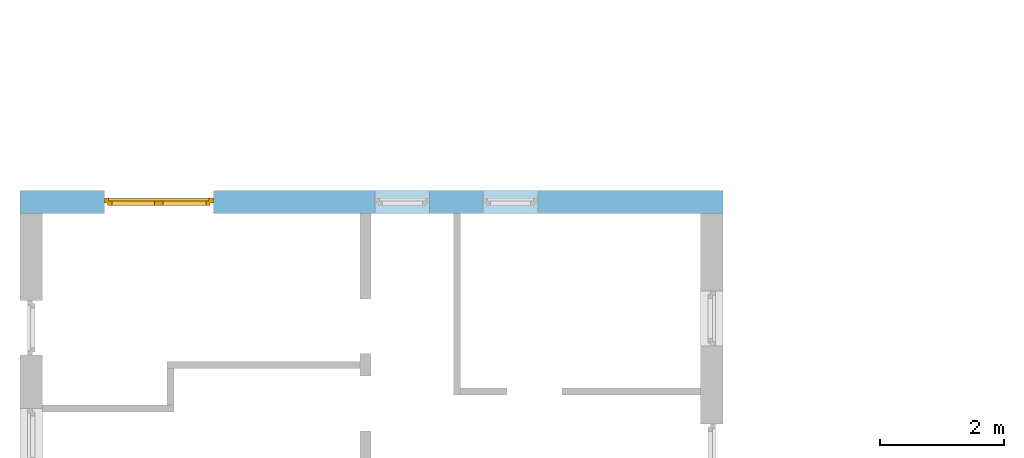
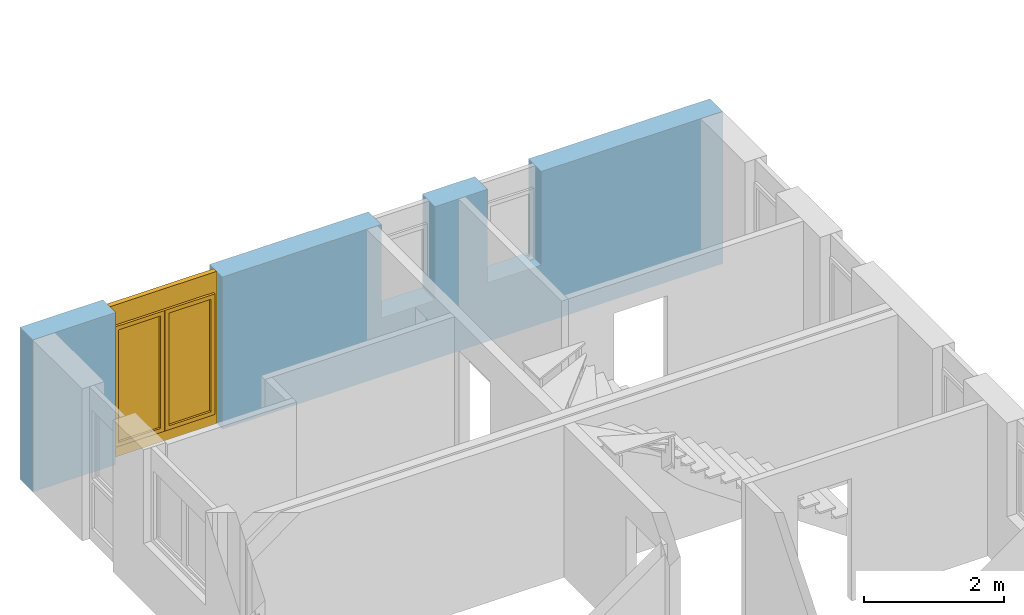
# One storey, part 13 of 42: 1 window, 3 openings, plus 1 element that does not belong to this part.
"""IFC2X3 building model written with IfcOpenShell, lengths in millimetres."""

import ifcopenshell
import ifcopenshell.guid

model = None  # the IFC model being written
_history = None  # IfcOwnerHistory: only IFC2X3 demands one
_inside = {}  # id of a spatial element -> (the spatial element, [elements in it])
_under = {}  # id of a project, library or spatial element -> (it, [spatial elements below it])
_declared = {}  # id of a project -> (the project, [libraries it declares])
_typed = {}  # id of a type object -> (the type object, [elements of that type])
_made_of = {}  # id of a material, layer set ... -> (it, [elements and type objects made of it])


def new_model(schema):
    """Start an empty IFC model of exactly this schema.

    Asked for "IFC4X3", IfcOpenShell would pick the latest addendum, in which some entities
    have other attributes; the version numbers below select the first issue.
    IFC2X3 requires an IfcOwnerHistory on every rooted entity: one is made here for all.
    """
    global model, _history
    if schema == "IFC4X3":
        model = ifcopenshell.file(schema_version=(4, 3, 0, 0))
    else:
        model = ifcopenshell.file(schema=schema)
    _inside.clear()
    _under.clear()
    _declared.clear()
    _typed.clear()
    _made_of.clear()
    _history = None
    if model.schema == "IFC2X3":
        org = make("IfcOrganization", Name="unknown")
        user = make(
            "IfcPersonAndOrganization",
            ThePerson=make("IfcPerson", FamilyName="unknown"),
            TheOrganization=org,
        )
        app = make(
            "IfcApplication",
            ApplicationDeveloper=org,
            Version="unknown",
            ApplicationFullName="unknown",
            ApplicationIdentifier="unknown",
        )
        _history = make(
            "IfcOwnerHistory",
            OwningUser=user,
            OwningApplication=app,
            ChangeAction="ADDED",
            CreationDate=0,
        )
    return model


def make(cls, **values):
    """One entity of the class cls with the attributes given. An attribute that is None is left unset."""
    return model.create_entity(
        cls, **{name: value for name, value in values.items() if value is not None}
    )


def entity(cls, *values):
    """Any entity or typed value of the class cls, its attributes in the order of the schema. None: left unset."""
    e = model.create_entity(cls)
    for i, value in enumerate(values):
        if value is not None:
            e[i] = value
    return e


def rooted(cls, **values):
    """An entity with a GlobalId (a new one), such as an element, a storey or a relation."""
    return make(cls, GlobalId=ifcopenshell.guid.new(), OwnerHistory=_history, **values)


def si_unit(unit_type, name, prefix=None):
    """IfcSIUnit, for example si_unit("LENGTHUNIT", "METRE", prefix="MILLI")."""
    return make("IfcSIUnit", UnitType=unit_type, Prefix=prefix, Name=name)


def converted_unit(unit_type, name, factor, base, dimensions=None, offset=None):
    """IfcConversionBasedUnit, such as the inch: factor (a typed value) times the base unit."""
    return make(
        "IfcConversionBasedUnit"
        if offset is None
        else "IfcConversionBasedUnitWithOffset",
        ConversionOffset=offset,
        Dimensions=None
        if dimensions is None
        else entity("IfcDimensionalExponents", *dimensions),
        UnitType=unit_type,
        Name=name,
        ConversionFactor=make(
            "IfcMeasureWithUnit", ValueComponent=factor, UnitComponent=base
        ),
    )


def assignment(units):
    """IfcUnitAssignment: the units of a project."""
    return None if units is None else make("IfcUnitAssignment", Units=units)


def point(xyz):
    """IfcCartesianPoint."""
    return None if xyz is None else make("IfcCartesianPoint", Coordinates=xyz)


def direction(xyz):
    """IfcDirection."""
    return None if xyz is None else make("IfcDirection", DirectionRatios=xyz)


def frame(location, z_axis=None, x_axis=None):
    """IfcAxis2Placement3D, a coordinate frame: its origin and axes. An axis left out is left unset."""
    return make(
        "IfcAxis2Placement3D",
        Location=point(location),
        Axis=direction(z_axis),
        RefDirection=direction(x_axis),
    )


def frame_2d(location, x_axis=None):
    """IfcAxis2Placement2D, a coordinate frame in the plane: its origin and x axis."""
    return make(
        "IfcAxis2Placement2D", Location=point(location), RefDirection=direction(x_axis)
    )


def origin():
    """The frame at (0, 0, 0) with its axes left unset."""
    return frame((0.0, 0.0, 0.0))


def origin_with_axes():
    """The frame at (0, 0, 0) with the z axis (0, 0, 1) and the x axis (1, 0, 0) written out."""
    return frame((0.0, 0.0, 0.0), z_axis=(0.0, 0.0, 1.0), x_axis=(1.0, 0.0, 0.0))


def place(relative_to, where):
    """IfcLocalPlacement: puts the frame where relative to a parent placement (None: the world)."""
    return make(
        "IfcLocalPlacement", PlacementRelTo=relative_to, RelativePlacement=where
    )


def context(
    kind, dimensions, precision=None, world=None, true_north=None, identifier=None
):
    """IfcGeometricRepresentationContext, for example the 3D "Model" context."""
    return make(
        "IfcGeometricRepresentationContext",
        ContextIdentifier=identifier,
        ContextType=kind,
        CoordinateSpaceDimension=dimensions,
        Precision=precision,
        WorldCoordinateSystem=world,
        TrueNorth=true_north,
    )


def subcontext(parent, identifier, kind, view, scale=None):
    """IfcGeometricRepresentationSubContext, for example "Body" below "Model"."""
    return make(
        "IfcGeometricRepresentationSubContext",
        ContextIdentifier=identifier,
        ContextType=kind,
        ParentContext=parent,
        TargetScale=scale,
        TargetView=view,
    )


def project(units=None, contexts=None):
    """IfcProject with its units and contexts."""
    return rooted(
        "IfcProject",
        Name="project",
        RepresentationContexts=contexts,
        UnitsInContext=assignment(units),
    )


def spatial(cls, under=None, at=None, **own):
    """A site, building, storey or space (cls), placed at a placement, below another one or the project."""
    s = rooted(cls, ObjectPlacement=at, **own)
    if under is not None:
        _under.setdefault(under.id(), (under, []))[1].append(s)
    return s


def profile(cls, at=None, kind="AREA", **sizes):
    """A parametric profile (cls). Its sizes go by their IFC names, for example OverallWidth=200.0."""
    return make(cls, ProfileType=kind, Position=at, **sizes)


def rectangle(**sizes):
    """IfcRectangleProfileDef."""
    return profile("IfcRectangleProfileDef", **sizes)


def extrude(swept, where, along, depth):
    """IfcExtrudedAreaSolid: the profile swept, set in the frame where, extruded along a direction by depth."""
    return make(
        "IfcExtrudedAreaSolid",
        SweptArea=swept,
        Position=where,
        ExtrudedDirection=direction(along),
        Depth=depth,
    )


def faces_of(points, faces, orient=None, outer=None):
    """IfcFace entities. A face is a list of loops; a loop is a list of indices into points, from 0.

    orient and outer hold one flag for each loop. By default every Orientation is true, the
    first loop of a face is its IfcFaceOuterBound and the others are IfcFaceBound.
    """
    made = []
    for i, loops in enumerate(faces):
        bounds = []
        for j, loop in enumerate(loops):
            is_outer = j == 0 if outer is None else outer[i][j]
            bounds.append(
                make(
                    "IfcFaceOuterBound" if is_outer else "IfcFaceBound",
                    Bound=make("IfcPolyLoop", Polygon=[points[k] for k in loop]),
                    Orientation=True if orient is None else orient[i][j],
                )
            )
        made.append(make("IfcFace", Bounds=bounds))
    return made


def faceted_brep(points, faces, orient=None, outer=None, voids=None):
    """IfcFacetedBrep: a solid bounded by flat faces; with voids (closed shells), ...WithVoids."""
    shared = [point(p) for p in points]
    hull = make("IfcClosedShell", CfsFaces=faces_of(shared, faces, orient, outer))
    if voids is None:
        return make("IfcFacetedBrep", Outer=hull)
    return make(
        "IfcFacetedBrepWithVoids",
        Outer=hull,
        Voids=[
            make(cls, CfsFaces=faces_of(shared, fs, o, b)) for cls, fs, o, b in voids
        ],
    )


def shape(context_of_items, identifier, shape_type, items):
    """IfcShapeRepresentation: the items that make up one representation, for example the "Body"."""
    return make(
        "IfcShapeRepresentation",
        ContextOfItems=context_of_items,
        RepresentationIdentifier=identifier,
        RepresentationType=shape_type,
        Items=items,
    )


def material(Name=None, Category=None):
    """IfcMaterial."""
    return make("IfcMaterial", Name=Name, Category=Category)


def layer(
    of_material, thickness, ventilated=None, Name=None, Category=None, Priority=None
):
    """IfcMaterialLayer: one layer of a wall or slab, of a material (None: an air gap)."""
    return make(
        "IfcMaterialLayer",
        Material=of_material,
        LayerThickness=thickness,
        IsVentilated=ventilated,
        Name=Name,
        Category=Category,
        Priority=Priority,
    )


def layer_set(layers, Name=None):
    """IfcMaterialLayerSet."""
    return make("IfcMaterialLayerSet", MaterialLayers=layers, LayerSetName=Name)


def layer_usage(for_layer_set, set_direction, sense, offset, extent=None):
    """IfcMaterialLayerSetUsage: how a layer set lies in its element."""
    return make(
        "IfcMaterialLayerSetUsage",
        ForLayerSet=for_layer_set,
        LayerSetDirection=set_direction,
        DirectionSense=sense,
        OffsetFromReferenceLine=offset,
        ReferenceExtent=extent,
    )


def made_of(thing, what):
    """Note that an element or type object is made of a material, layer set ...; save() writes the relation."""
    if what is not None:
        _made_of.setdefault(what.id(), (what, []))[1].append(thing)
    return thing


def type_object(cls, material=None, **own):
    """A type object (cls), such as IfcWallType, which elements share."""
    return made_of(rooted(cls, **own), material)


def element(
    cls,
    number,
    at=None,
    inside=None,
    cuts=None,
    type_object=None,
    material=None,
    context=None,
    identifier="Body",
    shape_type=None,
    held_by="IfcProductDefinitionShape",
    body=None,
    shapes=None,
    **own,
):
    """One element of the class cls, such as IfcWall. Its Tag is "e" and its number.

    at: its placement. inside: the storey or other place that contains it. cuts: it is an
    opening in that element (IfcRelVoidsElement). A single representation is given by context,
    identifier, shape_type and body (its items); several are given by shapes. held_by: the class
    of the entity that holds the representations. save() writes the other relations.
    """
    e = rooted(cls, Tag="e%d" % number, ObjectPlacement=at, **own)
    if body is not None:
        shapes = [shape(context, identifier, shape_type, body)]
    if shapes is not None:
        e.Representation = make(held_by, Representations=shapes)
    if inside is not None:
        _inside.setdefault(inside.id(), (inside, []))[1].append(e)
    if cuts is not None:
        rooted(
            "IfcRelVoidsElement", RelatingBuildingElement=cuts, RelatedOpeningElement=e
        )
    if type_object is not None:
        _typed.setdefault(type_object.id(), (type_object, []))[1].append(e)
    return made_of(e, material)


def fill(opening, filler):
    """IfcRelFillsElement: the door or window that sits in an opening."""
    return rooted(
        "IfcRelFillsElement",
        RelatingOpeningElement=opening,
        RelatedBuildingElement=filler,
    )


def aggregate(whole, parts):
    """IfcRelAggregates: a whole, such as a stair, and the parts it consists of."""
    return rooted("IfcRelAggregates", RelatingObject=whole, RelatedObjects=parts)


def save(model, path):
    """Write the relations noted so far, then the file.

    IfcRelAggregates (storeys below a building ...), IfcRelContainedInSpatialStructure (elements
    in a storey), IfcRelDefinesByType, IfcRelAssociatesMaterial and IfcRelDeclares: one each for
    every whole, place, type object, material and project.
    """
    for whole, parts in _under.values():
        aggregate(whole, parts)
    for where, things in _inside.values():
        rooted(
            "IfcRelContainedInSpatialStructure",
            RelatedElements=things,
            RelatingStructure=where,
        )
    for kind, things in _typed.values():
        rooted("IfcRelDefinesByType", RelatedObjects=things, RelatingType=kind)
    for what, things in _made_of.values():
        rooted("IfcRelAssociatesMaterial", RelatedObjects=things, RelatingMaterial=what)
    for by, libraries in _declared.values():
        rooted("IfcRelDeclares", RelatingContext=by, RelatedDefinitions=libraries)
    model.write(path)


model = new_model("IFC2X3")

# Units and contexts
model_context = context("Model", 3, precision=1e-05, world=origin())
body_context = subcontext(model_context, "Body", "Model", "MODEL_VIEW")
ifc_project = project(units=[si_unit("LENGTHUNIT", "METRE", prefix="MILLI"), converted_unit("PLANEANGLEUNIT", "DEGREE", entity("IfcPlaneAngleMeasure", 0.0174532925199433), si_unit("PLANEANGLEUNIT", "RADIAN"), dimensions=[0, 0, 0, 0, 0, 0, 0]), si_unit("AREAUNIT", "SQUARE_METRE"), si_unit("VOLUMEUNIT", "CUBIC_METRE")], contexts=[model_context])

# Building, storey
building_placement = place(None, origin())
building = spatial("IfcBuilding", under=ifc_project, at=building_placement, Name="Gebäude", CompositionType="ELEMENT")
storey_placement = place(building_placement, frame((0.0, 0.0, 2730.0), z_axis=(0.0, 0.0, 1.0), x_axis=(1.0, 0.0, 0.0)))
storey = spatial("IfcBuildingStorey", under=building, at=storey_placement, Name="OG.- Grundriss", CompositionType="ELEMENT", Elevation=2730.0)

# Wall, openings, window
ifc_material_1 = material(Name="Poroton")
ifc_layer = layer(ifc_material_1, 365.0000000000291)
ifc_layer_set = layer_set([ifc_layer])
ifc_layer_usage = layer_usage(ifc_layer_set, "AXIS2", "POSITIVE", 0.0)
wall_placement = place(storey_placement, frame((142357.7928067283, 136889.8877324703, 0.0), z_axis=(0.0, 0.0, 1.0), x_axis=(-1.0, 0.0, 0.0)))
wall = element("IfcWallStandardCase", 1, at=wall_placement, inside=storey, material=ifc_layer_usage, Name="<Unnamed Element>", context=body_context, shape_type="SweptSolid", body=[
    extrude(rectangle(XDim=11365.00000000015, YDim=365.0000000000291, at=frame_2d((5682.500000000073, 182.5000000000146), x_axis=(1.0, 0.0))), origin_with_axes(), (0.0, 0.0, 1.0), 2650.0),
])
opening_1_placement = place(wall_placement, frame((8240.0, 0.0, 0.0), z_axis=(0.0, 1.0, 0.0), x_axis=(0.0, 0.0, 1.0)))
opening_1 = element("IfcOpeningElement", 2, at=opening_1_placement, cuts=wall, Name="Fensteröffnung", ObjectType="Opening", context=body_context, shape_type="SweptSolid", body=[
    extrude(rectangle(XDim=2650.0, YDim=1760.0, at=frame_2d((1325.0, 880.0), x_axis=(1.0, 0.0))), origin_with_axes(), (0.0, 0.0, 1.0), 365.0000000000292),
])
opening_2_placement = place(wall_placement, frame((2990.0, 0.0, 1020.0), z_axis=(0.0, 1.0, 0.0), x_axis=(0.0, 0.0, 1.0)))
element("IfcOpeningElement", 3, at=opening_2_placement, cuts=wall, Name="Fensteröffnung", ObjectType="Opening", context=body_context, shape_type="SweptSolid", body=[
    extrude(rectangle(XDim=1630.0, YDim=885.0, at=frame_2d((815.0, 442.5), x_axis=(1.0, 0.0))), origin_with_axes(), (0.0, 0.0, 1.0), 365.0000000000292),
])
opening_3_placement = place(wall_placement, frame((4740.0, 0.0, 1020.0), z_axis=(0.0, 1.0, 0.0), x_axis=(0.0, 0.0, 1.0)))
element("IfcOpeningElement", 4, at=opening_3_placement, cuts=wall, Name="Fensteröffnung", ObjectType="Opening", context=body_context, shape_type="SweptSolid", body=[
    extrude(rectangle(XDim=1630.0, YDim=885.0, at=frame_2d((815.0, 442.5), x_axis=(1.0, 0.0))), origin_with_axes(), (0.0, 0.0, 1.0), 365.0000000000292),
])
ifc_material_2 = material()
window_style = type_object("IfcWindowStyle", Name="Fenster", ConstructionType="NOTDEFINED", OperationType="USERDEFINED", ParameterTakesPrecedence=False, Sizeable=False)
window_placement = place(opening_1_placement, frame((0.0, 0.0, 0.0), z_axis=(1.0, 0.0, 0.0), x_axis=(0.0, 1.0, 0.0)))
window = element("IfcWindow", 5, at=window_placement, inside=storey, type_object=window_style, material=ifc_material_2, Name="Fenster", OverallHeight=2650.0, OverallWidth=1760.0, context=body_context, shape_type="Brep", body=[
    faceted_brep([(9.797174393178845e-15, 200.0000000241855, 2650.0), (9.797174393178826e-15, 200.0000000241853, -2.449293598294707e-15), (69.99999999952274, 200.0000000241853, -2.449293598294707e-15), (69.99999999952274, 200.0000000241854, 2650.0), (0.0, 120.0000000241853, 2.449293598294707e-15), (1.914360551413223e-29, 120.0000000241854, 2650.0), (69.99999999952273, 120.0000000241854, 2650.0), (69.99999999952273, 120.0000000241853, 2.449293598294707e-15), (9.797174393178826e-15, 200.0000000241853, -2.449293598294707e-15), (9.797174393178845e-15, 200.0000000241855, 2650.0), (1.914360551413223e-29, 120.0000000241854, 2650.0), (0.0, 120.0000000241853, 2.449293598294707e-15), (69.99999999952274, 200.0000000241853, -2.449293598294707e-15), (9.797174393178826e-15, 200.0000000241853, -2.449293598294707e-15), (0.0, 120.0000000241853, 2.449293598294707e-15), (69.99999999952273, 120.0000000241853, 2.449293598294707e-15), (69.99999999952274, 200.0000000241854, 2650.0), (69.99999999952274, 200.0000000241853, -2.449293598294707e-15), (69.99999999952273, 120.0000000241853, 2.449293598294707e-15), (69.99999999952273, 120.0000000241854, 2650.0), (9.797174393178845e-15, 200.0000000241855, 2650.0), (69.99999999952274, 200.0000000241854, 2650.0), (69.99999999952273, 120.0000000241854, 2650.0), (1.914360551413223e-29, 120.0000000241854, 2650.0)], [[[0, 1, 2, 3]], [[4, 5, 6, 7]], [[8, 9, 10, 11]], [[12, 13, 14, 15]], [[16, 17, 18, 19]], [[20, 21, 22, 23]]], orient=[[False], [False], [False], [False], [False], [False]]),
    faceted_brep([(1690.000000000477, 200.0000000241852, 2650.0), (1690.000000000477, 200.0000000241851, -2.449293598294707e-15), (1760.0, 200.0000000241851, -2.449293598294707e-15), (1760.0, 200.0000000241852, 2650.0), (1690.000000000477, 120.0000000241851, 2.449293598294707e-15), (1690.000000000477, 120.0000000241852, 2650.0), (1760.0, 120.0000000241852, 2650.0), (1760.0, 120.0000000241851, 2.449293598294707e-15), (1690.000000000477, 200.0000000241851, -2.449293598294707e-15), (1690.000000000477, 200.0000000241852, 2650.0), (1690.000000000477, 120.0000000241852, 2650.0), (1690.000000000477, 120.0000000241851, 2.449293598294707e-15), (1760.0, 200.0000000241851, -2.449293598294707e-15), (1690.000000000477, 200.0000000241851, -2.449293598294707e-15), (1690.000000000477, 120.0000000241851, 2.449293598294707e-15), (1760.0, 120.0000000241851, 2.449293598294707e-15), (1760.0, 200.0000000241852, 2650.0), (1760.0, 200.0000000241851, -2.449293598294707e-15), (1760.0, 120.0000000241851, 2.449293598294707e-15), (1760.0, 120.0000000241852, 2650.0), (1690.000000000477, 200.0000000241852, 2650.0), (1760.0, 200.0000000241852, 2650.0), (1760.0, 120.0000000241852, 2650.0), (1690.000000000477, 120.0000000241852, 2650.0)], [[[0, 1, 2, 3]], [[4, 5, 6, 7]], [[8, 9, 10, 11]], [[12, 13, 14, 15]], [[16, 17, 18, 19]], [[20, 21, 22, 23]]], orient=[[False], [False], [False], [False], [False], [False]]),
    faceted_brep([(69.99999999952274, 200.0000000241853, 220.0), (69.99999999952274, 200.0000000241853, -2.449293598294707e-15), (1690.000000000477, 200.0000000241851, -2.449293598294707e-15), (1690.000000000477, 200.0000000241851, 220.0), (69.99999999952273, 120.0000000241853, 2.449293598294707e-15), (69.99999999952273, 120.0000000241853, 220.0), (1690.000000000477, 120.0000000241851, 220.0), (1690.000000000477, 120.0000000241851, 2.449293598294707e-15), (69.99999999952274, 200.0000000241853, -2.449293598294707e-15), (69.99999999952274, 200.0000000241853, 220.0), (69.99999999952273, 120.0000000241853, 220.0), (69.99999999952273, 120.0000000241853, 2.449293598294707e-15), (1690.000000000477, 200.0000000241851, -2.449293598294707e-15), (69.99999999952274, 200.0000000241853, -2.449293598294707e-15), (69.99999999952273, 120.0000000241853, 2.449293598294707e-15), (1690.000000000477, 120.0000000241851, 2.449293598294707e-15), (1690.000000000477, 200.0000000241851, 220.0), (1690.000000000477, 200.0000000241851, -2.449293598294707e-15), (1690.000000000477, 120.0000000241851, 2.449293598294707e-15), (1690.000000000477, 120.0000000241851, 220.0), (69.99999999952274, 200.0000000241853, 220.0), (1690.000000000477, 200.0000000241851, 220.0), (1690.000000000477, 120.0000000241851, 220.0), (69.99999999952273, 120.0000000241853, 220.0)], [[[0, 1, 2, 3]], [[4, 5, 6, 7]], [[8, 9, 10, 11]], [[12, 13, 14, 15]], [[16, 17, 18, 19]], [[20, 21, 22, 23]]], orient=[[False], [False], [False], [False], [False], [False]]),
    faceted_brep([(69.99999999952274, 200.0000000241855, 2650.0), (69.99999999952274, 200.0000000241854, 2280.0), (1690.000000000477, 200.0000000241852, 2280.0), (1690.000000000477, 200.0000000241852, 2650.0), (69.99999999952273, 120.0000000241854, 2280.0), (69.99999999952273, 120.0000000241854, 2650.0), (1690.000000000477, 120.0000000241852, 2650.0), (1690.000000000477, 120.0000000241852, 2280.0), (69.99999999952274, 200.0000000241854, 2280.0), (69.99999999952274, 200.0000000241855, 2650.0), (69.99999999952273, 120.0000000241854, 2650.0), (69.99999999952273, 120.0000000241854, 2280.0), (1690.000000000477, 200.0000000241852, 2280.0), (69.99999999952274, 200.0000000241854, 2280.0), (69.99999999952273, 120.0000000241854, 2280.0), (1690.000000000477, 120.0000000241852, 2280.0), (1690.000000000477, 200.0000000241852, 2650.0), (1690.000000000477, 200.0000000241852, 2280.0), (1690.000000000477, 120.0000000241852, 2280.0), (1690.000000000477, 120.0000000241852, 2650.0), (69.99999999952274, 200.0000000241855, 2650.0), (1690.000000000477, 200.0000000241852, 2650.0), (1690.000000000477, 120.0000000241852, 2650.0), (69.99999999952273, 120.0000000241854, 2650.0)], [[[0, 1, 2, 3]], [[4, 5, 6, 7]], [[8, 9, 10, 11]], [[12, 13, 14, 15]], [[16, 17, 18, 19]], [[20, 21, 22, 23]]], orient=[[False], [False], [False], [False], [False], [False]]),
    faceted_brep([(49.99999999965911, 240.0000000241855, 2300.0), (49.99999999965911, 240.0000000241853, 200.0), (119.9999999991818, 240.0000000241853, 200.0), (119.9999999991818, 240.0000000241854, 2300.0), (49.9999999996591, 170.0000000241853, 200.0), (49.9999999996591, 170.0000000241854, 2300.0), (119.9999999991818, 170.0000000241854, 2300.0), (119.9999999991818, 170.0000000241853, 200.0), (49.99999999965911, 240.0000000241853, 200.0), (49.99999999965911, 240.0000000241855, 2300.0), (49.9999999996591, 170.0000000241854, 2300.0), (49.9999999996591, 170.0000000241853, 200.0), (119.9999999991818, 240.0000000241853, 200.0), (49.99999999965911, 240.0000000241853, 200.0), (49.9999999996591, 170.0000000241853, 200.0), (119.9999999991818, 170.0000000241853, 200.0), (119.9999999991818, 240.0000000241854, 2300.0), (119.9999999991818, 240.0000000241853, 200.0), (119.9999999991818, 170.0000000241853, 200.0), (119.9999999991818, 170.0000000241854, 2300.0), (49.99999999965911, 240.0000000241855, 2300.0), (119.9999999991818, 240.0000000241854, 2300.0), (119.9999999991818, 170.0000000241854, 2300.0), (49.9999999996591, 170.0000000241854, 2300.0)], [[[0, 1, 2, 3]], [[4, 5, 6, 7]], [[8, 9, 10, 11]], [[12, 13, 14, 15]], [[16, 17, 18, 19]], [[20, 21, 22, 23]]], orient=[[False], [False], [False], [False], [False], [False]]),
    faceted_brep([(809.5000000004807, 240.0000000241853, 2300.0), (809.5000000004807, 240.0000000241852, 200.0), (879.5000000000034, 240.0000000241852, 200.0), (879.5000000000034, 240.0000000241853, 2300.0), (809.5000000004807, 170.0000000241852, 200.0), (809.5000000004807, 170.0000000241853, 2300.0), (879.5000000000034, 170.0000000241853, 2300.0), (879.5000000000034, 170.0000000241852, 200.0), (809.5000000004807, 240.0000000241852, 200.0), (809.5000000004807, 240.0000000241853, 2300.0), (809.5000000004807, 170.0000000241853, 2300.0), (809.5000000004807, 170.0000000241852, 200.0), (879.5000000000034, 240.0000000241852, 200.0), (809.5000000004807, 240.0000000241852, 200.0), (809.5000000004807, 170.0000000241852, 200.0), (879.5000000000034, 170.0000000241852, 200.0), (879.5000000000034, 240.0000000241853, 2300.0), (879.5000000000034, 240.0000000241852, 200.0), (879.5000000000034, 170.0000000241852, 200.0), (879.5000000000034, 170.0000000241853, 2300.0), (809.5000000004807, 240.0000000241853, 2300.0), (879.5000000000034, 240.0000000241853, 2300.0), (879.5000000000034, 170.0000000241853, 2300.0), (809.5000000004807, 170.0000000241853, 2300.0)], [[[0, 1, 2, 3]], [[4, 5, 6, 7]], [[8, 9, 10, 11]], [[12, 13, 14, 15]], [[16, 17, 18, 19]], [[20, 21, 22, 23]]], orient=[[False], [False], [False], [False], [False], [False]]),
    faceted_brep([(119.9999999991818, 240.0000000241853, 270.0), (119.9999999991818, 240.0000000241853, 200.0), (809.5000000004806, 240.0000000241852, 200.0), (809.5000000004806, 240.0000000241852, 270.0), (119.9999999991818, 170.0000000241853, 200.0), (119.9999999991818, 170.0000000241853, 270.0), (809.5000000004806, 170.0000000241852, 270.0), (809.5000000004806, 170.0000000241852, 200.0), (119.9999999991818, 240.0000000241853, 200.0), (119.9999999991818, 240.0000000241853, 270.0), (119.9999999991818, 170.0000000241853, 270.0), (119.9999999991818, 170.0000000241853, 200.0), (809.5000000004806, 240.0000000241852, 200.0), (119.9999999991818, 240.0000000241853, 200.0), (119.9999999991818, 170.0000000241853, 200.0), (809.5000000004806, 170.0000000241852, 200.0), (809.5000000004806, 240.0000000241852, 270.0), (809.5000000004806, 240.0000000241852, 200.0), (809.5000000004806, 170.0000000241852, 200.0), (809.5000000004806, 170.0000000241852, 270.0), (119.9999999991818, 240.0000000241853, 270.0), (809.5000000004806, 240.0000000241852, 270.0), (809.5000000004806, 170.0000000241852, 270.0), (119.9999999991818, 170.0000000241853, 270.0)], [[[0, 1, 2, 3]], [[4, 5, 6, 7]], [[8, 9, 10, 11]], [[12, 13, 14, 15]], [[16, 17, 18, 19]], [[20, 21, 22, 23]]], orient=[[False], [False], [False], [False], [False], [False]]),
    faceted_brep([(119.9999999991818, 240.0000000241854, 2300.0), (119.9999999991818, 240.0000000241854, 2230.0), (809.5000000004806, 240.0000000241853, 2230.0), (809.5000000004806, 240.0000000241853, 2300.0), (119.9999999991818, 170.0000000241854, 2230.0), (119.9999999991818, 170.0000000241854, 2300.0), (809.5000000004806, 170.0000000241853, 2300.0), (809.5000000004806, 170.0000000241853, 2230.0), (119.9999999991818, 240.0000000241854, 2230.0), (119.9999999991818, 240.0000000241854, 2300.0), (119.9999999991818, 170.0000000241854, 2300.0), (119.9999999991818, 170.0000000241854, 2230.0), (809.5000000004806, 240.0000000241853, 2230.0), (119.9999999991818, 240.0000000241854, 2230.0), (119.9999999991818, 170.0000000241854, 2230.0), (809.5000000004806, 170.0000000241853, 2230.0), (809.5000000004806, 240.0000000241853, 2300.0), (809.5000000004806, 240.0000000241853, 2230.0), (809.5000000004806, 170.0000000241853, 2230.0), (809.5000000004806, 170.0000000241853, 2300.0), (119.9999999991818, 240.0000000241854, 2300.0), (809.5000000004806, 240.0000000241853, 2300.0), (809.5000000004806, 170.0000000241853, 2300.0), (119.9999999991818, 170.0000000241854, 2300.0)], [[[0, 1, 2, 3]], [[4, 5, 6, 7]], [[8, 9, 10, 11]], [[12, 13, 14, 15]], [[16, 17, 18, 19]], [[20, 21, 22, 23]]], orient=[[False], [False], [False], [False], [False], [False]]),
    faceted_brep([(880.4999999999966, 240.0000000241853, 2300.0), (880.4999999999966, 240.0000000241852, 200.0), (950.4999999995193, 240.0000000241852, 200.0), (950.4999999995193, 240.0000000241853, 2300.0), (880.4999999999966, 170.0000000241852, 200.0), (880.4999999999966, 170.0000000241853, 2300.0), (950.4999999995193, 170.0000000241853, 2300.0), (950.4999999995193, 170.0000000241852, 200.0), (880.4999999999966, 240.0000000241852, 200.0), (880.4999999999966, 240.0000000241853, 2300.0), (880.4999999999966, 170.0000000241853, 2300.0), (880.4999999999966, 170.0000000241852, 200.0), (950.4999999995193, 240.0000000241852, 200.0), (880.4999999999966, 240.0000000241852, 200.0), (880.4999999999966, 170.0000000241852, 200.0), (950.4999999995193, 170.0000000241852, 200.0), (950.4999999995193, 240.0000000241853, 2300.0), (950.4999999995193, 240.0000000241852, 200.0), (950.4999999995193, 170.0000000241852, 200.0), (950.4999999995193, 170.0000000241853, 2300.0), (880.4999999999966, 240.0000000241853, 2300.0), (950.4999999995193, 240.0000000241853, 2300.0), (950.4999999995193, 170.0000000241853, 2300.0), (880.4999999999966, 170.0000000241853, 2300.0)], [[[0, 1, 2, 3]], [[4, 5, 6, 7]], [[8, 9, 10, 11]], [[12, 13, 14, 15]], [[16, 17, 18, 19]], [[20, 21, 22, 23]]], orient=[[False], [False], [False], [False], [False], [False]]),
    faceted_brep([(1640.000000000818, 240.0000000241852, 2300.0), (1640.000000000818, 240.0000000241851, 200.0), (1710.000000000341, 240.0000000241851, 200.0), (1710.000000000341, 240.0000000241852, 2300.0), (1640.000000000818, 170.0000000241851, 200.0), (1640.000000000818, 170.0000000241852, 2300.0), (1710.000000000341, 170.0000000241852, 2300.0), (1710.000000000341, 170.0000000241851, 200.0), (1640.000000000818, 240.0000000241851, 200.0), (1640.000000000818, 240.0000000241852, 2300.0), (1640.000000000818, 170.0000000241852, 2300.0), (1640.000000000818, 170.0000000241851, 200.0), (1710.000000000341, 240.0000000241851, 200.0), (1640.000000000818, 240.0000000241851, 200.0), (1640.000000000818, 170.0000000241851, 200.0), (1710.000000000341, 170.0000000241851, 200.0), (1710.000000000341, 240.0000000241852, 2300.0), (1710.000000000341, 240.0000000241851, 200.0), (1710.000000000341, 170.0000000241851, 200.0), (1710.000000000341, 170.0000000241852, 2300.0), (1640.000000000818, 240.0000000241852, 2300.0), (1710.000000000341, 240.0000000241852, 2300.0), (1710.000000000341, 170.0000000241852, 2300.0), (1640.000000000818, 170.0000000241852, 2300.0)], [[[0, 1, 2, 3]], [[4, 5, 6, 7]], [[8, 9, 10, 11]], [[12, 13, 14, 15]], [[16, 17, 18, 19]], [[20, 21, 22, 23]]], orient=[[False], [False], [False], [False], [False], [False]]),
    faceted_brep([(950.4999999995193, 240.0000000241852, 270.0), (950.4999999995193, 240.0000000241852, 200.0), (1640.000000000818, 240.0000000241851, 200.0), (1640.000000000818, 240.0000000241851, 270.0), (950.4999999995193, 170.0000000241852, 200.0), (950.4999999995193, 170.0000000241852, 270.0), (1640.000000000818, 170.0000000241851, 270.0), (1640.000000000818, 170.0000000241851, 200.0), (950.4999999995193, 240.0000000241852, 200.0), (950.4999999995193, 240.0000000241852, 270.0), (950.4999999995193, 170.0000000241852, 270.0), (950.4999999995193, 170.0000000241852, 200.0), (1640.000000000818, 240.0000000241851, 200.0), (950.4999999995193, 240.0000000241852, 200.0), (950.4999999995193, 170.0000000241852, 200.0), (1640.000000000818, 170.0000000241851, 200.0), (1640.000000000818, 240.0000000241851, 270.0), (1640.000000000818, 240.0000000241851, 200.0), (1640.000000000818, 170.0000000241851, 200.0), (1640.000000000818, 170.0000000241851, 270.0), (950.4999999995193, 240.0000000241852, 270.0), (1640.000000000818, 240.0000000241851, 270.0), (1640.000000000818, 170.0000000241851, 270.0), (950.4999999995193, 170.0000000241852, 270.0)], [[[0, 1, 2, 3]], [[4, 5, 6, 7]], [[8, 9, 10, 11]], [[12, 13, 14, 15]], [[16, 17, 18, 19]], [[20, 21, 22, 23]]], orient=[[False], [False], [False], [False], [False], [False]]),
    faceted_brep([(950.4999999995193, 240.0000000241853, 2300.0), (950.4999999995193, 240.0000000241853, 2230.0), (1640.000000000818, 240.0000000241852, 2230.0), (1640.000000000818, 240.0000000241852, 2300.0), (950.4999999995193, 170.0000000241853, 2230.0), (950.4999999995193, 170.0000000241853, 2300.0), (1640.000000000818, 170.0000000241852, 2300.0), (1640.000000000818, 170.0000000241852, 2230.0), (950.4999999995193, 240.0000000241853, 2230.0), (950.4999999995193, 240.0000000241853, 2300.0), (950.4999999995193, 170.0000000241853, 2300.0), (950.4999999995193, 170.0000000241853, 2230.0), (1640.000000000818, 240.0000000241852, 2230.0), (950.4999999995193, 240.0000000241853, 2230.0), (950.4999999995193, 170.0000000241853, 2230.0), (1640.000000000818, 170.0000000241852, 2230.0), (1640.000000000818, 240.0000000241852, 2300.0), (1640.000000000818, 240.0000000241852, 2230.0), (1640.000000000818, 170.0000000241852, 2230.0), (1640.000000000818, 170.0000000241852, 2300.0), (950.4999999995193, 240.0000000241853, 2300.0), (1640.000000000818, 240.0000000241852, 2300.0), (1640.000000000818, 170.0000000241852, 2300.0), (950.4999999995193, 170.0000000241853, 2300.0)], [[[0, 1, 2, 3]], [[4, 5, 6, 7]], [[8, 9, 10, 11]], [[12, 13, 14, 15]], [[16, 17, 18, 19]], [[20, 21, 22, 23]]], orient=[[False], [False], [False], [False], [False], [False]]),
    faceted_brep([(119.9999999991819, 205.0000000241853, 270.0), (809.5000000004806, 205.0000000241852, 270.0), (809.5000000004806, 205.0000000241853, 2229.999999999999), (119.9999999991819, 205.0000000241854, 2229.999999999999), (119.9999999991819, 204.0000000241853, 270.0), (119.9999999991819, 204.0000000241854, 2229.999999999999), (809.5000000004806, 204.0000000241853, 2229.999999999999), (809.5000000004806, 204.0000000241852, 270.0), (119.9999999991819, 205.0000000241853, 270.0), (119.9999999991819, 204.0000000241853, 270.0), (809.5000000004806, 204.0000000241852, 270.0), (809.5000000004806, 205.0000000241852, 270.0), (809.5000000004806, 205.0000000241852, 270.0), (809.5000000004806, 204.0000000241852, 270.0), (809.5000000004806, 204.0000000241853, 2229.999999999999), (809.5000000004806, 205.0000000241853, 2229.999999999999), (809.5000000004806, 205.0000000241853, 2229.999999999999), (809.5000000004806, 204.0000000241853, 2229.999999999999), (119.9999999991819, 204.0000000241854, 2229.999999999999), (119.9999999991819, 205.0000000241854, 2229.999999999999), (119.9999999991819, 205.0000000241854, 2229.999999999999), (119.9999999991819, 204.0000000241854, 2229.999999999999), (119.9999999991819, 204.0000000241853, 270.0), (119.9999999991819, 205.0000000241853, 270.0)], [[[0, 1, 2, 3]], [[4, 5, 6, 7]], [[8, 9, 10, 11]], [[12, 13, 14, 15]], [[16, 17, 18, 19]], [[20, 21, 22, 23]]], orient=[[False], [False], [False], [False], [False], [False]]),
    faceted_brep([(950.4999999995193, 205.0000000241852, 270.0), (1640.000000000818, 205.0000000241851, 270.0), (1640.000000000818, 205.0000000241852, 2229.999999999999), (950.4999999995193, 205.0000000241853, 2229.999999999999), (950.4999999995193, 204.0000000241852, 270.0), (950.4999999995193, 204.0000000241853, 2229.999999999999), (1640.000000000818, 204.0000000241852, 2229.999999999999), (1640.000000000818, 204.0000000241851, 270.0), (950.4999999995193, 205.0000000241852, 270.0), (950.4999999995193, 204.0000000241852, 270.0), (1640.000000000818, 204.0000000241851, 270.0), (1640.000000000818, 205.0000000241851, 270.0), (1640.000000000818, 205.0000000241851, 270.0), (1640.000000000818, 204.0000000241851, 270.0), (1640.000000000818, 204.0000000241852, 2229.999999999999), (1640.000000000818, 205.0000000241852, 2229.999999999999), (1640.000000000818, 205.0000000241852, 2229.999999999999), (1640.000000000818, 204.0000000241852, 2229.999999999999), (950.4999999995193, 204.0000000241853, 2229.999999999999), (950.4999999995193, 205.0000000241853, 2229.999999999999), (950.4999999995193, 205.0000000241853, 2229.999999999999), (950.4999999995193, 204.0000000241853, 2229.999999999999), (950.4999999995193, 204.0000000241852, 270.0), (950.4999999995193, 205.0000000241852, 270.0)], [[[0, 1, 2, 3]], [[4, 5, 6, 7]], [[8, 9, 10, 11]], [[12, 13, 14, 15]], [[16, 17, 18, 19]], [[20, 21, 22, 23]]], orient=[[False], [False], [False], [False], [False], [False]]),
])
fill(opening_1, window)

save(model, "model.ifc")
